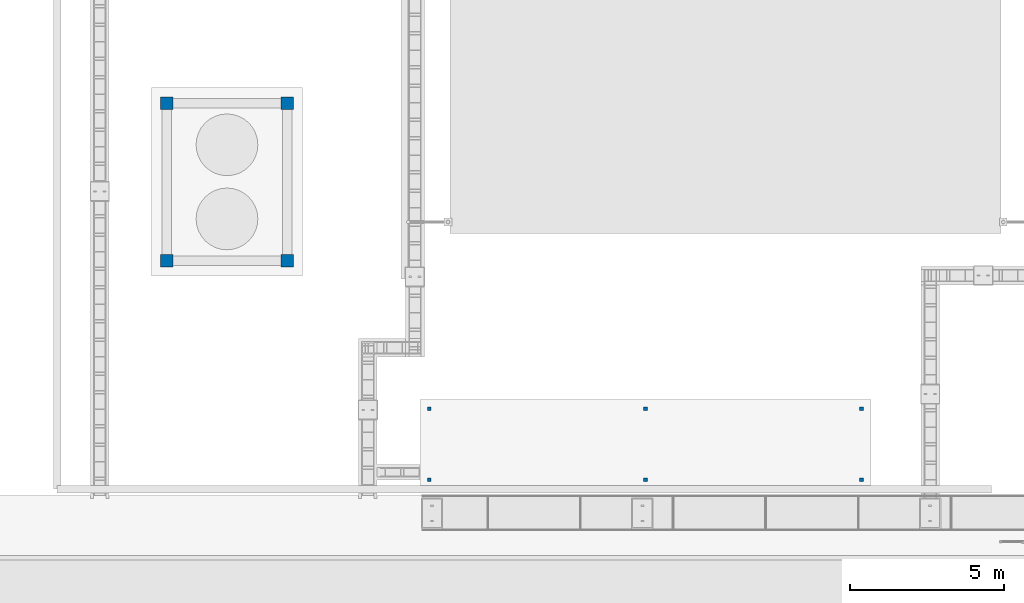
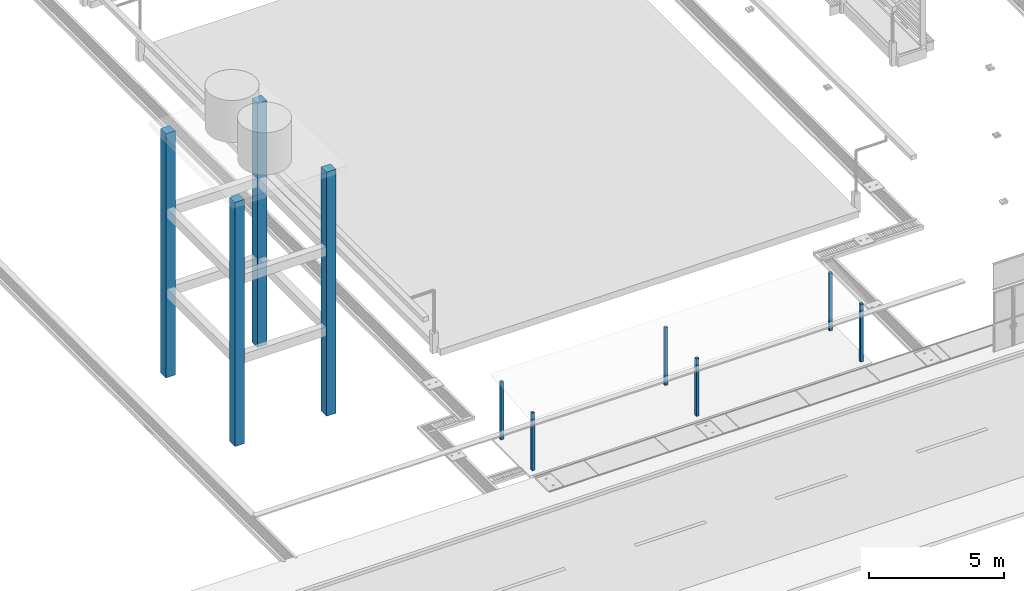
# One storey, part 1 of 90: 10 columns.
"""IFC2X3 building model written with IfcOpenShell, lengths in metres."""

from ifc_helpers import new_model, si_unit, origin, origin_with_axes, place, context, subcontext, project, spatial, faceted_brep, element, save


model = new_model("IFC2X3")

# Units and contexts
model_context = context("Model", 3, precision=1e-05, world=origin_with_axes())
body_context = subcontext(model_context, "Body", "Model", "MODEL_VIEW")
ifc_project = project(units=[si_unit("LENGTHUNIT", "METRE"), si_unit("AREAUNIT", "SQUARE_METRE"), si_unit("VOLUMEUNIT", "CUBIC_METRE"), si_unit("PLANEANGLEUNIT", "RADIAN")], contexts=[model_context])

# Site, building, storey
site_placement = place(None, origin_with_axes())
site = spatial("IfcSite", under=ifc_project, at=site_placement, Name="Predio Los Mangos - Morales, San Martín", CompositionType="ELEMENT")
building_placement = place(site_placement, origin())
building = spatial("IfcBuilding", under=site, at=building_placement, Name="Hogar de Refugio Temporal", CompositionType="ELEMENT")
storey_placement = place(building_placement, origin())
storey = spatial("IfcBuildingStorey", under=building, at=storey_placement, Name="NIVEL 1 (NPT +0.00)", CompositionType="ELEMENT", Elevation=0.0)

# Columns
column_1_placement = place(storey_placement, origin())
element("IfcColumn", 1, at=column_1_placement, inside=storey, Name="poste_motos", ObjectType="Columna", context=body_context, shape_type="Brep", body=[
    faceted_brep([(13.04, 18.24, 0.1), (13.04, 18.36, 0.1), (13.16, 18.36, 0.1), (13.16, 18.24, 0.1), (13.04, 18.24, 2.7), (13.16, 18.24, 2.7), (13.16, 18.36, 2.7), (13.04, 18.36, 2.7)], [[[0, 1, 2, 3]], [[4, 5, 6, 7]], [[0, 3, 5, 4]], [[3, 2, 6, 5]], [[2, 1, 7, 6]], [[1, 0, 4, 7]]]),
])
column_2_placement = place(storey_placement, origin())
element("IfcColumn", 2, at=column_2_placement, inside=storey, Name="poste_motos", ObjectType="Columna", context=body_context, shape_type="Brep", body=[
    faceted_brep([(13.04, 20.54, 0.1), (13.04, 20.66, 0.1), (13.16, 20.66, 0.1), (13.16, 20.54, 0.1), (13.04, 20.54, 2.7), (13.16, 20.54, 2.7), (13.16, 20.66, 2.7), (13.04, 20.66, 2.7)], [[[0, 1, 2, 3]], [[4, 5, 6, 7]], [[0, 3, 5, 4]], [[3, 2, 6, 5]], [[2, 1, 7, 6]], [[1, 0, 4, 7]]]),
])
column_3_placement = place(storey_placement, origin())
element("IfcColumn", 3, at=column_3_placement, inside=storey, Name="poste_motos", ObjectType="Columna", context=body_context, shape_type="Brep", body=[
    faceted_brep([(20.04, 18.24, 0.1), (20.04, 18.36, 0.1), (20.16, 18.36, 0.1), (20.16, 18.24, 0.1), (20.04, 18.24, 2.7), (20.16, 18.24, 2.7), (20.16, 18.36, 2.7), (20.04, 18.36, 2.7)], [[[0, 1, 2, 3]], [[4, 5, 6, 7]], [[0, 3, 5, 4]], [[3, 2, 6, 5]], [[2, 1, 7, 6]], [[1, 0, 4, 7]]]),
])
column_4_placement = place(storey_placement, origin())
element("IfcColumn", 4, at=column_4_placement, inside=storey, Name="poste_motos", ObjectType="Columna", context=body_context, shape_type="Brep", body=[
    faceted_brep([(20.04, 20.54, 0.1), (20.04, 20.66, 0.1), (20.16, 20.66, 0.1), (20.16, 20.54, 0.1), (20.04, 20.54, 2.7), (20.16, 20.54, 2.7), (20.16, 20.66, 2.7), (20.04, 20.66, 2.7)], [[[0, 1, 2, 3]], [[4, 5, 6, 7]], [[0, 3, 5, 4]], [[3, 2, 6, 5]], [[2, 1, 7, 6]], [[1, 0, 4, 7]]]),
])
column_5_placement = place(storey_placement, origin())
element("IfcColumn", 5, at=column_5_placement, inside=storey, Name="poste_motos", ObjectType="Columna", context=body_context, shape_type="Brep", body=[
    faceted_brep([(27.04, 18.24, 0.1), (27.04, 18.36, 0.1), (27.16, 18.36, 0.1), (27.16, 18.24, 0.1), (27.04, 18.24, 2.7), (27.16, 18.24, 2.7), (27.16, 18.36, 2.7), (27.04, 18.36, 2.7)], [[[0, 1, 2, 3]], [[4, 5, 6, 7]], [[0, 3, 5, 4]], [[3, 2, 6, 5]], [[2, 1, 7, 6]], [[1, 0, 4, 7]]]),
])
column_6_placement = place(storey_placement, origin())
element("IfcColumn", 6, at=column_6_placement, inside=storey, Name="poste_motos", ObjectType="Columna", context=body_context, shape_type="Brep", body=[
    faceted_brep([(27.04, 20.54, 0.1), (27.04, 20.66, 0.1), (27.16, 20.66, 0.1), (27.16, 20.54, 0.1), (27.04, 20.54, 2.7), (27.16, 20.54, 2.7), (27.16, 20.66, 2.7), (27.04, 20.66, 2.7)], [[[0, 1, 2, 3]], [[4, 5, 6, 7]], [[0, 3, 5, 4]], [[3, 2, 6, 5]], [[2, 1, 7, 6]], [[1, 0, 4, 7]]]),
])
column_7_placement = place(storey_placement, origin())
element("IfcColumn", 7, at=column_7_placement, inside=storey, Name="tanque_col", ObjectType="Columna", context=body_context, shape_type="Brep", body=[
    faceted_brep([(4.4, 25.2, 0.0), (4.4, 25.6, 0.0), (4.8, 25.6, 0.0), (4.8, 25.2, 0.0), (4.4, 25.2, 11.0), (4.8, 25.2, 11.0), (4.8, 25.6, 11.0), (4.4, 25.6, 11.0)], [[[0, 1, 2, 3]], [[4, 5, 6, 7]], [[0, 3, 5, 4]], [[3, 2, 6, 5]], [[2, 1, 7, 6]], [[1, 0, 4, 7]]]),
])
column_8_placement = place(storey_placement, origin())
element("IfcColumn", 8, at=column_8_placement, inside=storey, Name="tanque_col", ObjectType="Columna", context=body_context, shape_type="Brep", body=[
    faceted_brep([(4.4, 30.3, 0.0), (4.4, 30.7, 0.0), (4.8, 30.7, 0.0), (4.8, 30.3, 0.0), (4.4, 30.3, 11.0), (4.8, 30.3, 11.0), (4.8, 30.7, 11.0), (4.4, 30.7, 11.0)], [[[0, 1, 2, 3]], [[4, 5, 6, 7]], [[0, 3, 5, 4]], [[3, 2, 6, 5]], [[2, 1, 7, 6]], [[1, 0, 4, 7]]]),
])
column_9_placement = place(storey_placement, origin())
element("IfcColumn", 9, at=column_9_placement, inside=storey, Name="tanque_col", ObjectType="Columna", context=body_context, shape_type="Brep", body=[
    faceted_brep([(8.3, 25.2, 0.0), (8.3, 25.6, 0.0), (8.7, 25.6, 0.0), (8.7, 25.2, 0.0), (8.3, 25.2, 11.0), (8.7, 25.2, 11.0), (8.7, 25.6, 11.0), (8.3, 25.6, 11.0)], [[[0, 1, 2, 3]], [[4, 5, 6, 7]], [[0, 3, 5, 4]], [[3, 2, 6, 5]], [[2, 1, 7, 6]], [[1, 0, 4, 7]]]),
])
column_10_placement = place(storey_placement, origin())
element("IfcColumn", 10, at=column_10_placement, inside=storey, Name="tanque_col", ObjectType="Columna", context=body_context, shape_type="Brep", body=[
    faceted_brep([(8.3, 30.3, 0.0), (8.3, 30.7, 0.0), (8.7, 30.7, 0.0), (8.7, 30.3, 0.0), (8.3, 30.3, 11.0), (8.7, 30.3, 11.0), (8.7, 30.7, 11.0), (8.3, 30.7, 11.0)], [[[0, 1, 2, 3]], [[4, 5, 6, 7]], [[0, 3, 5, 4]], [[3, 2, 6, 5]], [[2, 1, 7, 6]], [[1, 0, 4, 7]]]),
])

save(model, "model.ifc")
